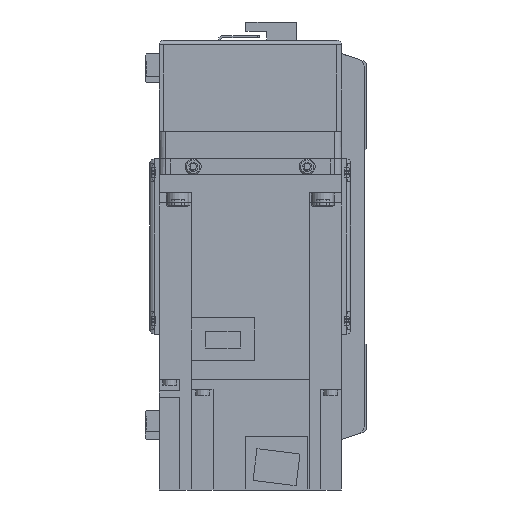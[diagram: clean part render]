
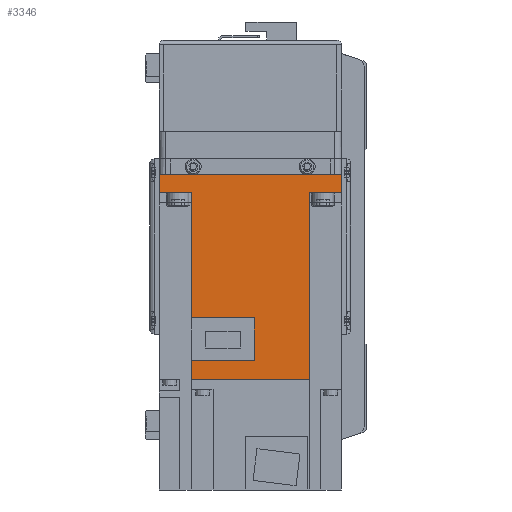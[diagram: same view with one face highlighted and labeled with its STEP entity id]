
A CAD part, left-side view. The second image highlights one B-rep face of the part: STEP entity #3346.
In plain terms, the highlighted planar face has unit normal (-1, 0, 0) as drawn and (1, 0, 0) by its records, which use the part's own axes.
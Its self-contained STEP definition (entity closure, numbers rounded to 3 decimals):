
#3346 = ADVANCED_FACE( '', ( #7146 ), #7147, .F. );
#7146 = FACE_OUTER_BOUND( '', #11136, .T. );
#7147 = PLANE( '', #11137 );
#11136 = EDGE_LOOP( '', ( #20518, #20519, #20520, #20521, #20522, #20523, #20524, #20525, #20526, #20527, #20528, #20529 ) );
#11137 = AXIS2_PLACEMENT_3D( '', #20530, #20531, #20532 );
#20518 = ORIENTED_EDGE( '', *, *, #25081, .F. );
#20519 = ORIENTED_EDGE( '', *, *, #23932, .F. );
#20520 = ORIENTED_EDGE( '', *, *, #24504, .F. );
#20521 = ORIENTED_EDGE( '', *, *, #24348, .T. );
#20522 = ORIENTED_EDGE( '', *, *, #25852, .F. );
#20523 = ORIENTED_EDGE( '', *, *, #24151, .T. );
#20524 = ORIENTED_EDGE( '', *, *, #24972, .T. );
#20525 = ORIENTED_EDGE( '', *, *, #24543, .F. );
#20526 = ORIENTED_EDGE( '', *, *, #23817, .F. );
#20527 = ORIENTED_EDGE( '', *, *, #23934, .F. );
#20528 = ORIENTED_EDGE( '', *, *, #25853, .F. );
#20529 = ORIENTED_EDGE( '', *, *, #25796, .F. );
#20530 = CARTESIAN_POINT( '', ( 40., 89.8, 40. ) );
#20531 = DIRECTION( '', ( -1., 0., 0. ) );
#20532 = DIRECTION( '', ( 0., 0., 1. ) );
#23817 = EDGE_CURVE( '', #28999, #29000, #29001, .T. );
#23932 = EDGE_CURVE( '', #29177, #29179, #29180, .T. );
#23934 = EDGE_CURVE( '', #29181, #28999, #29183, .T. );
#24151 = EDGE_CURVE( '', #29525, #29523, #29526, .T. );
#24348 = EDGE_CURVE( '', #29828, #29826, #29829, .T. );
#24504 = EDGE_CURVE( '', #29828, #29177, #30047, .T. );
#24543 = EDGE_CURVE( '', #29000, #30103, #30104, .T. );
#24972 = EDGE_CURVE( '', #29523, #30103, #30714, .T. );
#25081 = EDGE_CURVE( '', #29179, #30869, #30870, .T. );
#25796 = EDGE_CURVE( '', #30869, #31751, #31752, .T. );
#25852 = EDGE_CURVE( '', #29525, #29826, #31813, .T. );
#25853 = EDGE_CURVE( '', #31751, #29181, #31814, .T. );
#28999 = VERTEX_POINT( '', #36981 );
#29000 = VERTEX_POINT( '', #36982 );
#29001 = LINE( '', #36983, #36984 );
#29177 = VERTEX_POINT( '', #37263 );
#29179 = VERTEX_POINT( '', #37266 );
#29180 = LINE( '', #37267, #37268 );
#29181 = VERTEX_POINT( '', #37269 );
#29183 = LINE( '', #37272, #37273 );
#29523 = VERTEX_POINT( '', #37759 );
#29525 = VERTEX_POINT( '', #37762 );
#29526 = LINE( '', #37763, #37764 );
#29826 = VERTEX_POINT( '', #38201 );
#29828 = VERTEX_POINT( '', #38204 );
#29829 = LINE( '', #38205, #38206 );
#30047 = LINE( '', #38528, #38529 );
#30103 = VERTEX_POINT( '', #38603 );
#30104 = LINE( '', #38604, #38605 );
#30714 = LINE( '', #39577, #39578 );
#30869 = VERTEX_POINT( '', #39793 );
#30870 = LINE( '', #39794, #39795 );
#31751 = VERTEX_POINT( '', #41253 );
#31752 = LINE( '', #41254, #41255 );
#31813 = LINE( '', #41359, #41360 );
#31814 = LINE( '', #41361, #41362 );
#36981 = CARTESIAN_POINT( '', ( 40., 8., -25.95 ) );
#36982 = CARTESIAN_POINT( '', ( 40., 8., -40. ) );
#36983 = CARTESIAN_POINT( '', ( 40., 8., 40. ) );
#36984 = VECTOR( '', #43959, 1000. );
#37263 = CARTESIAN_POINT( '', ( 40., 89.8, -25.95 ) );
#37266 = CARTESIAN_POINT( '', ( 40., 81.4, -25.95 ) );
#37267 = CARTESIAN_POINT( '', ( 40., 158., -25.95 ) );
#37268 = VECTOR( '', #44103, 1000. );
#37269 = CARTESIAN_POINT( '', ( 40., 62.8, -25.95 ) );
#37272 = CARTESIAN_POINT( '', ( 40., 158., -25.95 ) );
#37273 = VECTOR( '', #44105, 1000. );
#37759 = CARTESIAN_POINT( '', ( 40., 0., 40. ) );
#37762 = CARTESIAN_POINT( '', ( 40., 8., 40. ) );
#37763 = CARTESIAN_POINT( '', ( 40., 89.8, 40. ) );
#37764 = VECTOR( '', #44391, 1000. );
#38201 = CARTESIAN_POINT( '', ( 40., 8., 25.95 ) );
#38204 = CARTESIAN_POINT( '', ( 40., 89.8, 25.95 ) );
#38205 = CARTESIAN_POINT( '', ( 40., 158., 25.95 ) );
#38206 = VECTOR( '', #44613, 1000. );
#38528 = CARTESIAN_POINT( '', ( 40., 89.8, 40. ) );
#38529 = VECTOR( '', #44780, 1000. );
#38603 = CARTESIAN_POINT( '', ( 40., 0., -40. ) );
#38604 = CARTESIAN_POINT( '', ( 40., 89.8, -40. ) );
#38605 = VECTOR( '', #44820, 1000. );
#39577 = CARTESIAN_POINT( '', ( 40., 0., 40. ) );
#39578 = VECTOR( '', #45306, 1000. );
#39793 = CARTESIAN_POINT( '', ( 40., 81.4, 1.8 ) );
#39794 = CARTESIAN_POINT( '', ( 40., 81.4, -26. ) );
#39795 = VECTOR( '', #45430, 1000. );
#41253 = CARTESIAN_POINT( '', ( 40., 62.8, 1.8 ) );
#41254 = CARTESIAN_POINT( '', ( 40., 81.4, 1.8 ) );
#41255 = VECTOR( '', #46123, 1000. );
#41359 = CARTESIAN_POINT( '', ( 40., 8., 40. ) );
#41360 = VECTOR( '', #46160, 1000. );
#41361 = CARTESIAN_POINT( '', ( 40., 62.8, 1.8 ) );
#41362 = VECTOR( '', #46161, 1000. );
#43959 = DIRECTION( '', ( 0., 0., -1. ) );
#44103 = DIRECTION( '', ( 0., -1., 0. ) );
#44105 = DIRECTION( '', ( 0., -1., 0. ) );
#44391 = DIRECTION( '', ( 0., -1., 0. ) );
#44613 = DIRECTION( '', ( 0., -1., 0. ) );
#44780 = DIRECTION( '', ( 0., 0., -1. ) );
#44820 = DIRECTION( '', ( 0., -1., 0. ) );
#45306 = DIRECTION( '', ( 0., 0., -1. ) );
#45430 = DIRECTION( '', ( 0., 0., 1. ) );
#46123 = DIRECTION( '', ( 0., -1., 0. ) );
#46160 = DIRECTION( '', ( 0., 0., -1. ) );
#46161 = DIRECTION( '', ( 0., 0., -1. ) );
